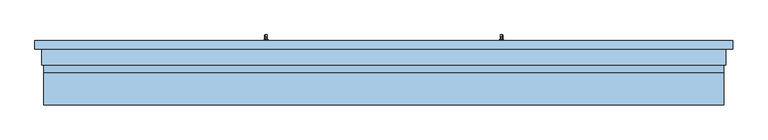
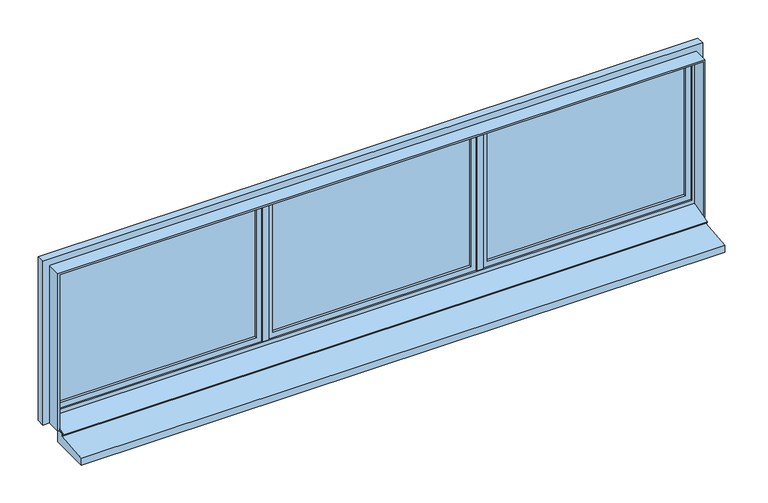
"""IFC4 building model written with IfcOpenShell, lengths in millimetres: window geometry, 3 Vantaux - Droits : Menuiserie 4."""

from ifc_helpers import new_model, si_unit, frame, origin, place, context, project, spatial, polyline, outline, extrude, faceted_brep, source, transform, mapped, element, save


def window_9c448f7a(model_context):
    return source(origin(), model_context, "Body", "SolidModel", [
        faceted_brep([(-669.3539903, 183.0, 1422.0339292), (-680.6460097, 183.0, 1422.0339292), (-682.0339292, 183.0, 1420.6460097), (-682.0339292, 183.0, 1409.3323012), (-680.6676988, 183.0, 1407.9660708), (-669.3323012, 183.0, 1407.9660708), (-667.9660708, 183.0, 1409.3323012), (-667.9660708, 183.0, 1420.6460097), (-667.9660708, 195.3386538, 1420.6460097), (-669.3539903, 195.9135489, 1422.0339292), (-667.9660708, 190.6523623, 1409.3323012), (-667.9660708, 197.3323012, 1402.6523623), (-667.9660708, 197.3323012, 1320.0), (-667.9660708, 208.6460097, 1320.0), (-667.9660708, 208.6460097, 1407.3386538), (-669.3323012, 190.0864511, 1407.9660708), (-680.6676988, 190.0864511, 1407.9660708), (-682.0339292, 190.6523623, 1409.3323012), (-682.0339292, 195.3386538, 1420.6460097), (-682.0339292, 208.6460097, 1407.3386538), (-682.0339292, 208.6460097, 1320.0), (-682.0339292, 197.3323012, 1320.0), (-682.0339292, 197.3323012, 1402.6523623), (-680.6460097, 195.9135489, 1422.0339292), (-669.3539903, 210.0339292, 1407.9135489), (-669.3323012, 195.9660708, 1402.0864511), (-680.6676988, 195.9660708, 1402.0864511), (-680.6460097, 210.0339292, 1407.9135489), (-669.3539903, 210.0339292, 1320.0), (-669.3323012, 195.9660708, 1320.0), (-680.6676988, 195.9660708, 1320.0), (-680.6460097, 210.0339292, 1320.0)], [[[0, 1, 2, 3, 4, 5, 6, 7]], [[7, 8, 9, 0]], [[6, 10, 11, 12, 13, 14, 8, 7]], [[5, 15, 10, 6]], [[4, 16, 15, 5]], [[3, 17, 16, 4]], [[2, 18, 19, 20, 21, 22, 17, 3]], [[1, 23, 18, 2]], [[0, 9, 23, 1]], [[8, 14, 24, 9]], [[15, 25, 11, 10]], [[16, 26, 25, 15]], [[17, 22, 26, 16]], [[23, 27, 19, 18]], [[9, 24, 27, 23]], [[28, 13, 12, 29, 30, 21, 20, 31]], [[14, 13, 28, 24]], [[25, 29, 12, 11]], [[26, 30, 29, 25]], [[22, 21, 30, 26]], [[27, 31, 20, 19]], [[24, 28, 31, 27]]]),
        extrude(outline(polyline([(1440.0, -668.0), (1440.0, -682.0), (1435.0, -687.0), (1365.0, -687.0), (1360.0, -682.0), (1360.0, -668.0), (1365.0, -663.0), (1435.0, -663.0), (1440.0, -668.0)])), frame((0.0, 177.0, 0.0), z_axis=(0.0, 1.0, 0.0), x_axis=(0.0, 0.0, 1.0)), (0.0, 0.0, 1.0), 6.0),
        faceted_brep([(680.6460097, 183.0, 1422.0339292), (669.3539903, 183.0, 1422.0339292), (667.9660708, 183.0, 1420.6460097), (667.9660708, 183.0, 1409.3323012), (669.3323012, 183.0, 1407.9660708), (680.6676988, 183.0, 1407.9660708), (682.0339292, 183.0, 1409.3323012), (682.0339292, 183.0, 1420.6460097), (682.0339292, 195.3386538, 1420.6460097), (680.6460097, 195.9135489, 1422.0339292), (682.0339292, 190.6523623, 1409.3323012), (682.0339292, 197.3323012, 1402.6523623), (682.0339292, 197.3323012, 1320.0), (682.0339292, 208.6460097, 1320.0), (682.0339292, 208.6460097, 1407.3386538), (680.6676988, 190.0864511, 1407.9660708), (669.3323012, 190.0864511, 1407.9660708), (667.9660708, 190.6523623, 1409.3323012), (667.9660708, 195.3386538, 1420.6460097), (667.9660708, 208.6460097, 1407.3386538), (667.9660708, 208.6460097, 1320.0), (667.9660708, 197.3323012, 1320.0), (667.9660708, 197.3323012, 1402.6523623), (669.3539903, 195.9135489, 1422.0339292), (680.6460097, 210.0339292, 1407.9135489), (680.6676988, 195.9660708, 1402.0864511), (669.3323012, 195.9660708, 1402.0864511), (669.3539903, 210.0339292, 1407.9135489), (680.6460097, 210.0339292, 1320.0), (680.6676988, 195.9660708, 1320.0), (669.3323012, 195.9660708, 1320.0), (669.3539903, 210.0339292, 1320.0)], [[[0, 1, 2, 3, 4, 5, 6, 7]], [[7, 8, 9, 0]], [[6, 10, 11, 12, 13, 14, 8, 7]], [[5, 15, 10, 6]], [[4, 16, 15, 5]], [[3, 17, 16, 4]], [[2, 18, 19, 20, 21, 22, 17, 3]], [[1, 23, 18, 2]], [[0, 9, 23, 1]], [[8, 14, 24, 9]], [[15, 25, 11, 10]], [[16, 26, 25, 15]], [[17, 22, 26, 16]], [[23, 27, 19, 18]], [[9, 24, 27, 23]], [[28, 13, 12, 29, 30, 21, 20, 31]], [[14, 13, 28, 24]], [[25, 29, 12, 11]], [[26, 30, 29, 25]], [[22, 21, 30, 26]], [[27, 31, 20, 19]], [[24, 28, 31, 27]]]),
        extrude(outline(polyline([(1440.0, 682.0), (1440.0, 668.0), (1435.0, 663.0), (1365.0, 663.0), (1360.0, 668.0), (1360.0, 682.0), (1365.0, 687.0), (1435.0, 687.0), (1440.0, 682.0)])), frame((0.0, 177.0, 0.0), z_axis=(0.0, 1.0, 0.0), x_axis=(0.0, 0.0, 1.0)), (0.0, 0.0, 1.0), 6.0),
        extrude(outline(polyline([(57.0, 800.0), (57.0, 720.0), (-192.0, 720.0), (-192.0, 764.0842572), (7.0, 785.0), (7.0, 800.0), (57.0, 800.0)])), frame((-1950.0, 0.0, 0.0), z_axis=(1.0, 0.0, 0.0), x_axis=(0.0, 1.0, 0.0)), (0.0, 0.0, 1.0), 3900.0),
        extrude(outline(polyline([(850.0, -650.0), (850.0, 650.0), (1800.0, 650.0), (1800.0, -650.0), (850.0, -650.0)]), holes=[polyline([(900.0, 600.0), (900.0, -600.0), (1750.0, -600.0), (1750.0, 600.0), (900.0, 600.0)])]), frame((0.0, 137.0, 0.0), z_axis=(0.0, 1.0, 0.0), x_axis=(0.0, 0.0, 1.0)), (0.0, 0.0, 1.0), 40.0),
        extrude(outline(polyline([(850.0, -1950.0), (850.0, -650.0), (1800.0, -650.0), (1800.0, -1950.0), (850.0, -1950.0)]), holes=[polyline([(900.0, -700.0), (900.0, -1900.0), (1750.0, -1900.0), (1750.0, -700.0), (900.0, -700.0)])]), frame((0.0, 137.0, 0.0), z_axis=(0.0, 1.0, 0.0), x_axis=(0.0, 0.0, 1.0)), (0.0, 0.0, 1.0), 40.0),
        extrude(outline(polyline([(700.0, 151.0), (700.0, 163.0), (1900.0, 163.0), (1900.0, 151.0), (700.0, 151.0)])), frame((0.0, 0.0, 900.0), z_axis=(0.0, 0.0, 1.0), x_axis=(1.0, 0.0, 0.0)), (0.0, 0.0, 1.0), 850.0),
        extrude(outline(polyline([(-1900.0, 151.0), (-1900.0, 163.0), (-700.0, 163.0), (-700.0, 151.0), (-1900.0, 151.0)])), frame((0.0, 0.0, 900.0), z_axis=(0.0, 0.0, 1.0), x_axis=(1.0, 0.0, 0.0)), (0.0, 0.0, 1.0), 850.0),
        extrude(outline(polyline([(-600.0, 151.0), (-600.0, 163.0), (600.0, 163.0), (600.0, 151.0), (-600.0, 151.0)])), frame((0.0, 0.0, 900.0), z_axis=(0.0, 0.0, 1.0), x_axis=(1.0, 0.0, 0.0)), (0.0, 0.0, 1.0), 850.0),
        extrude(outline(polyline([(850.0, 650.0), (850.0, 1950.0), (1800.0, 1950.0), (1800.0, 650.0), (850.0, 650.0)]), holes=[polyline([(900.0, 1900.0), (900.0, 700.0), (1750.0, 700.0), (1750.0, 1900.0), (900.0, 1900.0)])]), frame((0.0, 137.0, 0.0), z_axis=(0.0, 1.0, 0.0), x_axis=(0.0, 0.0, 1.0)), (0.0, 0.0, 1.0), 40.0),
        faceted_brep([(-2000.0, 177.0, 800.0), (2000.0, 177.0, 800.0), (2000.0, 127.0, 800.0), (1950.0, 127.0, 800.0), (1950.0, 2.0, 800.0), (-1950.0, 2.0, 800.0), (-1950.0, 127.0, 800.0), (-2000.0, 127.0, 800.0), (-2000.0, 127.0, 1850.0), (-2000.0, 177.0, 1850.0), (-1950.0, 127.0, 839.3761425), (1950.0, 127.0, 839.3761425), (2000.0, 127.0, 1850.0), (-1935.0, 127.0, 1785.0), (1935.0, 127.0, 1785.0), (1935.0, 127.0, 865.0), (-1935.0, 127.0, 865.0), (-1950.0, 2.0, 795.0), (-1950.0, -8.0, 795.0), (-1950.0, -8.0, 803.2030015), (1950.0, 2.0, 795.0), (1950.0, -8.0, 803.2030015), (1950.0, -8.0, 795.0), (2000.0, 177.0, 1850.0), (1950.0, 177.0, 1800.0), (-1950.0, 177.0, 1800.0), (-1950.0, 177.0, 850.0), (1950.0, 177.0, 850.0), (-1935.0, 137.0, 865.0), (-1935.0, 137.0, 1785.0), (1935.0, 137.0, 865.0), (1935.0, 137.0, 1785.0), (1950.0, 137.0, 1800.0), (1950.0, 137.0, 850.0), (-1950.0, 137.0, 850.0), (-1950.0, 137.0, 1800.0)], [[[0, 1, 2, 3, 4, 5, 6, 7]], [[7, 8, 9, 0]], [[7, 6, 10, 11, 3, 2, 12, 8], [13, 14, 15, 16]], [[10, 6, 5, 17, 18, 19]], [[5, 4, 20, 17]], [[4, 3, 11, 21, 22, 20]], [[2, 1, 23, 12]], [[0, 9, 23, 1], [24, 25, 26, 27]], [[13, 16, 28, 29]], [[28, 16, 15, 30]], [[31, 30, 15, 14]], [[19, 21, 11, 10]], [[32, 33, 34, 35], [29, 28, 30, 31]], [[34, 26, 25, 35]], [[26, 34, 33, 27]], [[24, 27, 33, 32]], [[18, 22, 21, 19]], [[17, 20, 22, 18]], [[13, 29, 31, 14]], [[35, 25, 24, 32]], [[12, 23, 9, 8]]]),
        extrude(outline(polyline([(800.0, -1950.0), (1800.0, -1950.0), (1800.0, 1950.0), (800.0, 1950.0), (800.0, 1960.0), (1810.0, 1960.0), (1810.0, -1960.0), (800.0, -1960.0), (800.0, -1950.0)])), frame((0.0, 37.0, 0.0), z_axis=(0.0, 1.0, 0.0), x_axis=(0.0, 0.0, 1.0)), (0.0, 0.0, 1.0), 90.0),
        extrude(outline(polyline([(670.0, 129.0), (630.0, 129.0), (630.0, 137.0), (670.0, 137.0), (670.0, 129.0)])), frame((0.0, 0.0, 865.0), z_axis=(0.0, 0.0, 1.0), x_axis=(1.0, 0.0, 0.0)), (0.0, 0.0, 1.0), 920.0),
        extrude(outline(polyline([(-630.0, 129.0), (-670.0, 129.0), (-670.0, 137.0), (-630.0, 137.0), (-630.0, 129.0)])), frame((0.0, 0.0, 865.0), z_axis=(0.0, 0.0, 1.0), x_axis=(1.0, 0.0, 0.0)), (0.0, 0.0, 1.0), 920.0),
    ])


if __name__ == "__main__":
    model = new_model("IFC4")
    model_context = context("Model", 3, world=origin())
    ifc_project = project(units=[si_unit("LENGTHUNIT", "METRE", prefix="MILLI")], contexts=[model_context])
    site = spatial("IfcSite", under=ifc_project)
    building = spatial("IfcBuilding", under=site)
    placement = place(None, origin())
    window_shape = window_9c448f7a(model_context)
    element("IfcWindow", 1, ObjectType="3 Vantaux - Droits : Menuiserie 4", at=placement, inside=building, context=model_context, shape_type="MappedRepresentation", body=[
        mapped(window_shape, transform((0.0, 0.0, 0.0), x_axis=(1.0, 0.0, 0.0), y_axis=(0.0, 1.0, 0.0), z_axis=(0.0, 0.0, 1.0))),
    ])
    save(model, "model.ifc")
